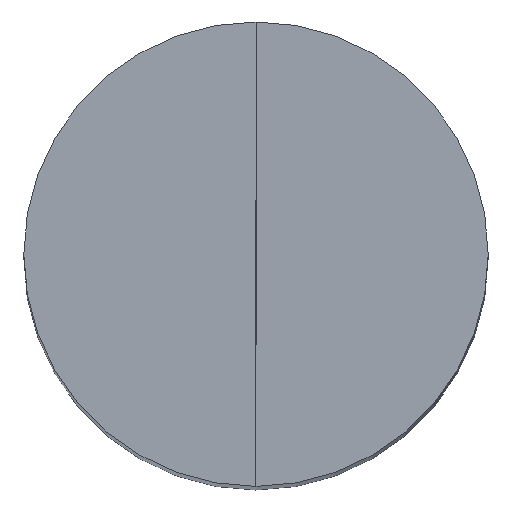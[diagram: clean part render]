
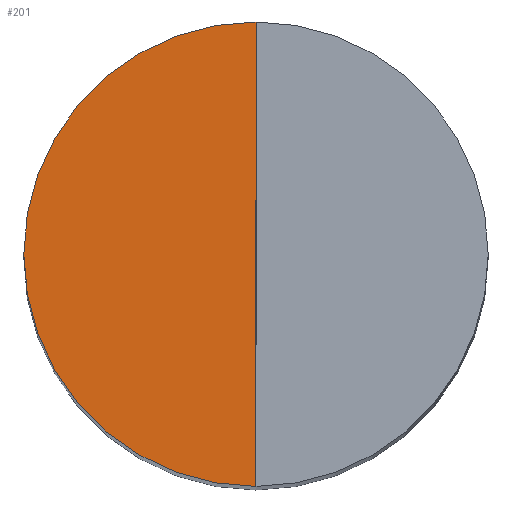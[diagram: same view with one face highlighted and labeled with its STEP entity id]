
A CAD part, top view. The second image highlights one B-rep face of the part: STEP entity #201.
In plain terms, the highlighted planar face has unit normal (0, 0, 1).
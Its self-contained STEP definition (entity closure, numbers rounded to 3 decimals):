
#39 = VERTEX_POINT('',#40);
#40 = CARTESIAN_POINT('',(0.,1.5,13.5));
#47 = CYLINDRICAL_SURFACE('',#48,1.5);
#48 = AXIS2_PLACEMENT_3D('',#49,#50,#51);
#49 = CARTESIAN_POINT('',(0.,0.,0.));
#50 = DIRECTION('',(-0.,-0.,-1.));
#51 = DIRECTION('',(1.,0.,0.));
#59 = PLANE('',#60);
#60 = AXIS2_PLACEMENT_3D('',#61,#62,#63);
#61 = CARTESIAN_POINT('',(0.,-1.5,0.));
#62 = DIRECTION('',(-1.,0.,0.));
#63 = DIRECTION('',(0.,1.,0.));
#71 = EDGE_CURVE('',#39,#72,#74,.T.);
#72 = VERTEX_POINT('',#73);
#73 = CARTESIAN_POINT('',(0.,-1.5,13.5));
#74 = SURFACE_CURVE('',#75,(#80,#87),.PCURVE_S1.);
#75 = CIRCLE('',#76,1.5);
#76 = AXIS2_PLACEMENT_3D('',#77,#78,#79);
#77 = CARTESIAN_POINT('',(0.,0.,13.5));
#78 = DIRECTION('',(0.,0.,1.));
#79 = DIRECTION('',(1.,0.,0.));
#80 = PCURVE('',#47,#81);
#81 = DEFINITIONAL_REPRESENTATION('',(#82),#86);
#82 = LINE('',#83,#84);
#83 = CARTESIAN_POINT('',(-0.,-13.5));
#84 = VECTOR('',#85,1.);
#85 = DIRECTION('',(-1.,0.));
#86 = ( GEOMETRIC_REPRESENTATION_CONTEXT(2) 
PARAMETRIC_REPRESENTATION_CONTEXT() REPRESENTATION_CONTEXT('2D SPACE',''
  ) );
#87 = PCURVE('',#88,#93);
#88 = PLANE('',#89);
#89 = AXIS2_PLACEMENT_3D('',#90,#91,#92);
#90 = CARTESIAN_POINT('',(-0.52,0.,13.5));
#91 = DIRECTION('',(0.,0.,1.));
#92 = DIRECTION('',(1.,0.,0.));
#93 = DEFINITIONAL_REPRESENTATION('',(#94),#98);
#94 = CIRCLE('',#95,1.5);
#95 = AXIS2_PLACEMENT_2D('',#96,#97);
#96 = CARTESIAN_POINT('',(0.52,0.));
#97 = DIRECTION('',(1.,0.));
#98 = ( GEOMETRIC_REPRESENTATION_CONTEXT(2) 
PARAMETRIC_REPRESENTATION_CONTEXT() REPRESENTATION_CONTEXT('2D SPACE',''
  ) );
#154 = EDGE_CURVE('',#72,#39,#155,.T.);
#155 = SURFACE_CURVE('',#156,(#160,#167),.PCURVE_S1.);
#156 = LINE('',#157,#158);
#157 = CARTESIAN_POINT('',(0.,-1.5,13.5));
#158 = VECTOR('',#159,1.);
#159 = DIRECTION('',(0.,1.,0.));
#160 = PCURVE('',#59,#161);
#161 = DEFINITIONAL_REPRESENTATION('',(#162),#166);
#162 = LINE('',#163,#164);
#163 = CARTESIAN_POINT('',(0.,-13.5));
#164 = VECTOR('',#165,1.);
#165 = DIRECTION('',(1.,0.));
#166 = ( GEOMETRIC_REPRESENTATION_CONTEXT(2) 
PARAMETRIC_REPRESENTATION_CONTEXT() REPRESENTATION_CONTEXT('2D SPACE',''
  ) );
#167 = PCURVE('',#88,#168);
#168 = DEFINITIONAL_REPRESENTATION('',(#169),#173);
#169 = LINE('',#170,#171);
#170 = CARTESIAN_POINT('',(0.52,-1.5));
#171 = VECTOR('',#172,1.);
#172 = DIRECTION('',(0.,1.));
#173 = ( GEOMETRIC_REPRESENTATION_CONTEXT(2) 
PARAMETRIC_REPRESENTATION_CONTEXT() REPRESENTATION_CONTEXT('2D SPACE',''
  ) );
#201 = ADVANCED_FACE('',(#202),#88,.T.);
#202 = FACE_BOUND('',#203,.T.);
#203 = EDGE_LOOP('',(#204,#205));
#204 = ORIENTED_EDGE('',*,*,#71,.T.);
#205 = ORIENTED_EDGE('',*,*,#154,.T.);
